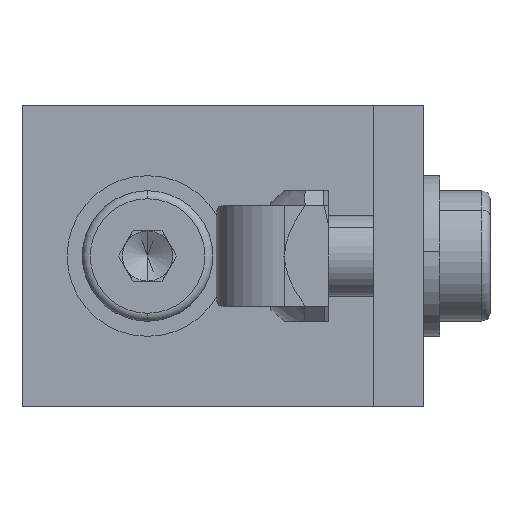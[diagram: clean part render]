
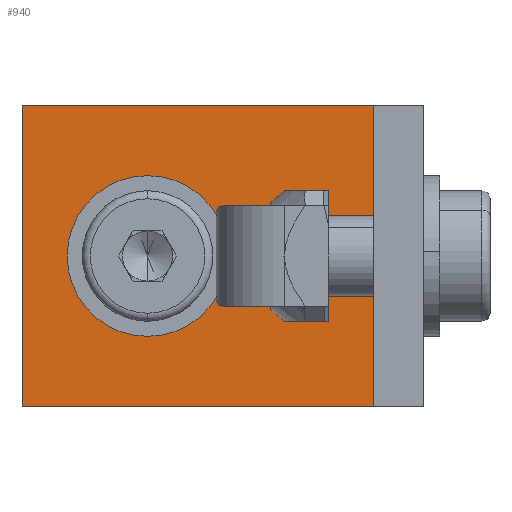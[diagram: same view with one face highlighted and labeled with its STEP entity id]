
A CAD part, left-side view. The second image highlights one B-rep face of the part: STEP entity #940.
In plain terms, the highlighted planar face has unit normal (-1, 0, 0).
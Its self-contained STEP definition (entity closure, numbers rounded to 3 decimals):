
#284 = LINE ( 'NONE', #2390, #6736 ) ;
#340 = CARTESIAN_POINT ( 'NONE',  ( 0., 0., 0. ) ) ;
#362 = ORIENTED_EDGE ( 'NONE', *, *, #3385, .T. ) ;
#471 = FACE_BOUND ( 'NONE', #4867, .T. ) ;
#554 = DIRECTION ( 'NONE',  ( 0., 0., -1. ) ) ;
#601 = CIRCLE ( 'NONE', #5607, 4.5 ) ;
#715 = DIRECTION ( 'NONE',  ( 0., 0., 1. ) ) ;
#859 = EDGE_CURVE ( 'NONE', #3545, #6080, #601, .T. ) ;
#917 = CIRCLE ( 'NONE', #6249, 4.5 ) ;
#940 = ADVANCED_FACE ( 'NONE', ( #471, #5114 ), #6261, .F. ) ;
#1190 = VERTEX_POINT ( 'NONE', #3169 ) ;
#1225 = DIRECTION ( 'NONE',  ( 0., -1., 0. ) ) ;
#1589 = DIRECTION ( 'NONE',  ( 1., 0., 0. ) ) ;
#1803 = CARTESIAN_POINT ( 'NONE',  ( 0., 0., 4.5 ) ) ;
#1919 = ORIENTED_EDGE ( 'NONE', *, *, #4783, .F. ) ;
#1956 = VECTOR ( 'NONE', #715, 1000. ) ;
#1971 = EDGE_LOOP ( 'NONE', ( #362, #3644, #1919, #3635 ) ) ;
#2012 = CARTESIAN_POINT ( 'NONE',  ( 0., -7.5, 0. ) ) ;
#2041 = VERTEX_POINT ( 'NONE', #6245 ) ;
#2350 = LINE ( 'NONE', #4365, #1956 ) ;
#2390 = CARTESIAN_POINT ( 'NONE',  ( 0., -7.5, -15. ) ) ;
#2486 = VERTEX_POINT ( 'NONE', #5010 ) ;
#2702 = CARTESIAN_POINT ( 'NONE',  ( 0., -7.5, 15. ) ) ;
#2833 = LINE ( 'NONE', #2702, #3321 ) ;
#2915 = DIRECTION ( 'NONE',  ( 1., 0., 0. ) ) ;
#2966 = VECTOR ( 'NONE', #6019, 1000. ) ;
#3016 = EDGE_CURVE ( 'NONE', #2486, #2041, #284, .T. ) ;
#3075 = CARTESIAN_POINT ( 'NONE',  ( 0., -22.5, 15. ) ) ;
#3169 = CARTESIAN_POINT ( 'NONE',  ( 0., 12.5, 15. ) ) ;
#3182 = ORIENTED_EDGE ( 'NONE', *, *, #859, .T. ) ;
#3321 = VECTOR ( 'NONE', #5417, 1000. ) ;
#3385 = EDGE_CURVE ( 'NONE', #2041, #6066, #2350, .T. ) ;
#3545 = VERTEX_POINT ( 'NONE', #1803 ) ;
#3635 = ORIENTED_EDGE ( 'NONE', *, *, #3016, .T. ) ;
#3644 = ORIENTED_EDGE ( 'NONE', *, *, #6403, .F. ) ;
#4043 = ORIENTED_EDGE ( 'NONE', *, *, #5789, .T. ) ;
#4365 = CARTESIAN_POINT ( 'NONE',  ( 0., -22.5, 0. ) ) ;
#4455 = CARTESIAN_POINT ( 'NONE',  ( 0., 12.5, 0. ) ) ;
#4783 = EDGE_CURVE ( 'NONE', #2486, #1190, #6630, .T. ) ;
#4867 = EDGE_LOOP ( 'NONE', ( #4043, #3182 ) ) ;
#4941 = DIRECTION ( 'NONE',  ( 0., 0., -1. ) ) ;
#4952 = AXIS2_PLACEMENT_3D ( 'NONE', #2012, #1589, #5756 ) ;
#5010 = CARTESIAN_POINT ( 'NONE',  ( 0., 12.5, -15. ) ) ;
#5114 = FACE_OUTER_BOUND ( 'NONE', #1971, .T. ) ;
#5226 = DIRECTION ( 'NONE',  ( 1., 0., 0. ) ) ;
#5417 = DIRECTION ( 'NONE',  ( 0., -1., 0. ) ) ;
#5607 = AXIS2_PLACEMENT_3D ( 'NONE', #340, #2915, #4941 ) ;
#5733 = CARTESIAN_POINT ( 'NONE',  ( 0., 0., 0. ) ) ;
#5756 = DIRECTION ( 'NONE',  ( 0., 1., 0. ) ) ;
#5789 = EDGE_CURVE ( 'NONE', #6080, #3545, #917, .T. ) ;
#6019 = DIRECTION ( 'NONE',  ( 0., 0., 1. ) ) ;
#6066 = VERTEX_POINT ( 'NONE', #3075 ) ;
#6080 = VERTEX_POINT ( 'NONE', #6428 ) ;
#6245 = CARTESIAN_POINT ( 'NONE',  ( 0., -22.5, -15. ) ) ;
#6249 = AXIS2_PLACEMENT_3D ( 'NONE', #5733, #5226, #554 ) ;
#6261 = PLANE ( 'NONE',  #4952 ) ;
#6403 = EDGE_CURVE ( 'NONE', #1190, #6066, #2833, .T. ) ;
#6428 = CARTESIAN_POINT ( 'NONE',  ( 0., 0., -4.5 ) ) ;
#6630 = LINE ( 'NONE', #4455, #2966 ) ;
#6736 = VECTOR ( 'NONE', #1225, 1000. ) ;
